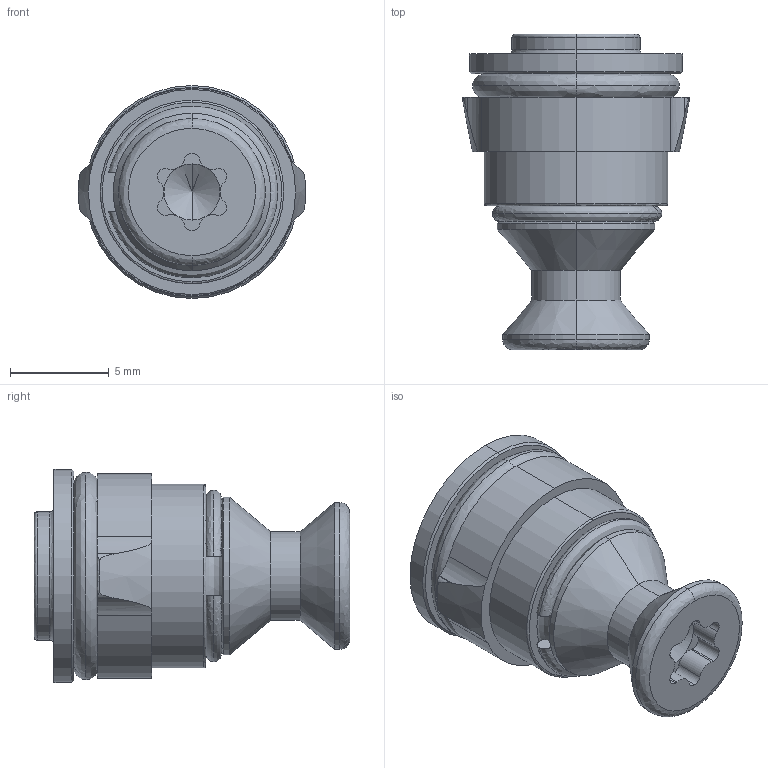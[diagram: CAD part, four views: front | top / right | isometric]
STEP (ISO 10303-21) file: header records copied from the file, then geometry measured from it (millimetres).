
FILE_DESCRIPTION (( 'STEP AP203' ), '1' );
FILE_NAME ('QS022-IAA-M6.STEP', '2017-06-07T08:45:51', ( '' ), ( '' ), 'SwSTEP 2.0', 'SolidWorks 2017', '' );
FILE_SCHEMA (( 'CONFIG_CONTROL_DESIGN' ));
Length unit declared in the file: millimetre
Products named in the file (1): QS022-IAA-M6
Bounding box: 11.52 x 16 x 10.8 mm (x, y, z)
Volume: 651.4 mm3; surface area: 1297.8 mm2
Topology: 4 solids, 4 shells, 103 faces, 242 edges, 146 vertices
Faces by surface type: cylinder 46, bspline 22, plane 19, cone 16
Entity records: 3561 total; most frequent: CARTESIAN_POINT 1194, DIRECTION 502, ORIENTED_EDGE 476, EDGE_CURVE 238, AXIS2_PLACEMENT_3D 218, VERTEX_POINT 146, CIRCLE 136, EDGE_LOOP 110
